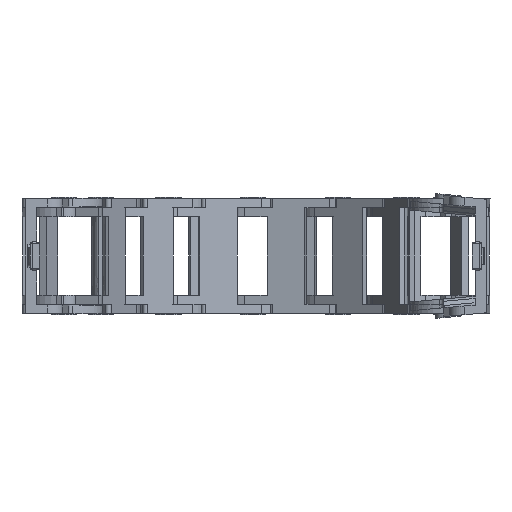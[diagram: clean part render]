
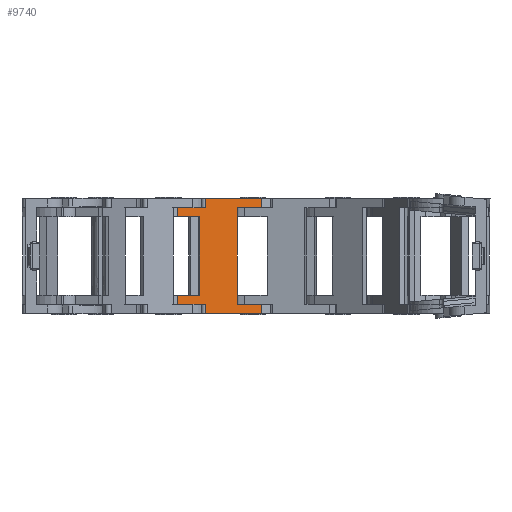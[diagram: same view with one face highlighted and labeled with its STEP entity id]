
A CAD part, left-side view. The second image highlights one B-rep face of the part: STEP entity #9740.
In plain terms, the highlighted planar face has unit normal (-0.972, -0.233, 0) as drawn and (0, -1, 0) by its records, which use the part's own axes.
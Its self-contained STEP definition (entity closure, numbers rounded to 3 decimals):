
#534=DIRECTION('',(-1.,0.,0.));
#535=VECTOR('',#534,4.4);
#536=CARTESIAN_POINT('',(-4.,-8.,-7.6));
#537=LINE('',#536,#535);
#638=DIRECTION('',(-1.,0.,0.));
#639=VECTOR('',#638,5.519);
#640=CARTESIAN_POINT('',(-2.881,-8.,9.35));
#641=LINE('',#640,#639);
#740=DIRECTION('',(1.,0.,0.));
#741=VECTOR('',#740,4.4);
#742=CARTESIAN_POINT('',(-8.4,-8.,7.6));
#743=LINE('',#742,#741);
#1106=DIRECTION('',(1.,0.,0.));
#1107=VECTOR('',#1106,4.9);
#1108=CARTESIAN_POINT('',(3.5,-8.,9.35));
#1109=LINE('',#1108,#1107);
#2148=DIRECTION('',(1.,0.,0.));
#2149=VECTOR('',#2148,11.281);
#2150=CARTESIAN_POINT('',(-2.881,-8.,-11.1));
#2151=LINE('',#2150,#2149);
#4021=DIRECTION('',(-1.,0.,0.));
#4022=VECTOR('',#4021,4.9);
#4023=CARTESIAN_POINT('',(8.4,-8.,-9.35));
#4024=LINE('',#4023,#4022);
#4094=DIRECTION('',(0.,0.,1.));
#4095=VECTOR('',#4094,1.75);
#4096=CARTESIAN_POINT('',(8.4,-8.,-11.1));
#4097=LINE('',#4096,#4095);
#4101=DIRECTION('',(0.,0.,1.));
#4102=VECTOR('',#4101,1.75);
#4103=CARTESIAN_POINT('',(-8.4,-8.,7.6));
#4104=LINE('',#4103,#4102);
#4108=DIRECTION('',(0.,0.,-1.));
#4109=VECTOR('',#4108,1.75);
#4110=CARTESIAN_POINT('',(8.4,-8.,11.1));
#4111=LINE('',#4110,#4109);
#4115=DIRECTION('',(0.,0.,1.));
#4116=VECTOR('',#4115,1.75);
#4117=CARTESIAN_POINT('',(-2.881,-8.,-11.1));
#4118=LINE('',#4117,#4116);
#4122=DIRECTION('',(0.,0.,1.));
#4123=VECTOR('',#4122,1.75);
#4124=CARTESIAN_POINT('',(-8.4,-8.,-9.35));
#4125=LINE('',#4124,#4123);
#4129=DIRECTION('',(0.,0.,-1.));
#4130=VECTOR('',#4129,15.2);
#4131=CARTESIAN_POINT('',(-4.,-8.,7.6));
#4132=LINE('',#4131,#4130);
#4220=DIRECTION('',(0.,0.,1.));
#4221=VECTOR('',#4220,18.7);
#4222=CARTESIAN_POINT('',(3.5,-8.,-9.35));
#4223=LINE('',#4222,#4221);
#4227=DIRECTION('',(0.,0.,-1.));
#4228=VECTOR('',#4227,1.75);
#4229=CARTESIAN_POINT('',(-2.881,-8.,11.1));
#4230=LINE('',#4229,#4228);
#4311=DIRECTION('',(-1.,0.,0.));
#4312=VECTOR('',#4311,11.281);
#4313=CARTESIAN_POINT('',(8.4,-8.,11.1));
#4314=LINE('',#4313,#4312);
#4479=DIRECTION('',(1.,0.,0.));
#4480=VECTOR('',#4479,5.519);
#4481=CARTESIAN_POINT('',(-8.4,-8.,-9.35));
#4482=LINE('',#4481,#4480);
#4636=CARTESIAN_POINT('',(-2.881,-8.,9.35));
#4637=VERTEX_POINT('',#4636);
#4638=CARTESIAN_POINT('',(-2.881,-8.,-9.35));
#4639=VERTEX_POINT('',#4638);
#4646=CARTESIAN_POINT('',(-8.4,-8.,7.6));
#4647=CARTESIAN_POINT('',(-8.4,-8.,9.35));
#4648=VERTEX_POINT('',#4646);
#4649=VERTEX_POINT('',#4647);
#4652=CARTESIAN_POINT('',(-8.4,-8.,-9.35));
#4653=CARTESIAN_POINT('',(-8.4,-8.,-7.6));
#4654=VERTEX_POINT('',#4652);
#4655=VERTEX_POINT('',#4653);
#4676=CARTESIAN_POINT('',(8.4,-8.,9.35));
#4678=VERTEX_POINT('',#4676);
#4681=CARTESIAN_POINT('',(8.4,-8.,-9.35));
#4683=VERTEX_POINT('',#4681);
#4704=CARTESIAN_POINT('',(3.5,-8.,-9.35));
#4705=CARTESIAN_POINT('',(3.5,-8.,9.35));
#4706=VERTEX_POINT('',#4704);
#4707=VERTEX_POINT('',#4705);
#5165=CARTESIAN_POINT('',(-2.881,-8.,-11.1));
#5166=VERTEX_POINT('',#5165);
#5167=CARTESIAN_POINT('',(8.4,-8.,-11.1));
#5168=VERTEX_POINT('',#5167);
#5175=CARTESIAN_POINT('',(8.4,-8.,11.1));
#5176=CARTESIAN_POINT('',(-2.881,-8.,11.1));
#5177=VERTEX_POINT('',#5175);
#5178=VERTEX_POINT('',#5176);
#5201=CARTESIAN_POINT('',(-4.,-8.,7.6));
#5203=VERTEX_POINT('',#5201);
#5206=CARTESIAN_POINT('',(-4.,-8.,-7.6));
#5208=VERTEX_POINT('',#5206);
#9710=CARTESIAN_POINT('',(-8.4,-8.,-10.6));
#9711=DIRECTION('',(0.,-1.,0.));
#9712=DIRECTION('',(1.,0.,0.));
#9713=AXIS2_PLACEMENT_3D('',#9710,#9711,#9712);
#9714=PLANE('',#9713);
#9715=ORIENTED_EDGE('',*,*,#5424,.F.);
#9717=ORIENTED_EDGE('',*,*,#9716,.F.);
#9718=ORIENTED_EDGE('',*,*,#5665,.F.);
#9719=ORIENTED_EDGE('',*,*,#5877,.T.);
#9720=ORIENTED_EDGE('',*,*,#5593,.F.);
#9722=ORIENTED_EDGE('',*,*,#9721,.F.);
#9724=ORIENTED_EDGE('',*,*,#9723,.F.);
#9726=ORIENTED_EDGE('',*,*,#9725,.T.);
#9727=ORIENTED_EDGE('',*,*,#6065,.F.);
#9729=ORIENTED_EDGE('',*,*,#9728,.F.);
#9730=ORIENTED_EDGE('',*,*,#9621,.F.);
#9731=ORIENTED_EDGE('',*,*,#9697,.F.);
#9732=ORIENTED_EDGE('',*,*,#6247,.F.);
#9734=ORIENTED_EDGE('',*,*,#9733,.T.);
#9736=ORIENTED_EDGE('',*,*,#9735,.F.);
#9737=ORIENTED_EDGE('',*,*,#5512,.T.);
#9738=EDGE_LOOP('',(#9715,#9717,#9718,#9719,#9720,#9722,#9724,#9726,#9727,#9729,
#9730,#9731,#9732,#9734,#9736,#9737));
#9739=FACE_OUTER_BOUND('',#9738,.F.);
#9740=ADVANCED_FACE('',(#9739),#9714,.T.);
#5424=EDGE_CURVE('',#5208,#4655,#537,.T.);
#5512=EDGE_CURVE('',#4654,#4655,#4125,.T.);
#5593=EDGE_CURVE('',#4637,#4649,#641,.T.);
#5665=EDGE_CURVE('',#4648,#5203,#743,.T.);
#5877=EDGE_CURVE('',#4648,#4649,#4104,.T.);
#6065=EDGE_CURVE('',#4707,#4678,#1109,.T.);
#6247=EDGE_CURVE('',#5166,#5168,#2151,.T.);
#9621=EDGE_CURVE('',#4683,#4706,#4024,.T.);
#9697=EDGE_CURVE('',#5168,#4683,#4097,.T.);
#9716=EDGE_CURVE('',#5203,#5208,#4132,.T.);
#9721=EDGE_CURVE('',#5178,#4637,#4230,.T.);
#9723=EDGE_CURVE('',#5177,#5178,#4314,.T.);
#9725=EDGE_CURVE('',#5177,#4678,#4111,.T.);
#9728=EDGE_CURVE('',#4706,#4707,#4223,.T.);
#9733=EDGE_CURVE('',#5166,#4639,#4118,.T.);
#9735=EDGE_CURVE('',#4654,#4639,#4482,.T.);
